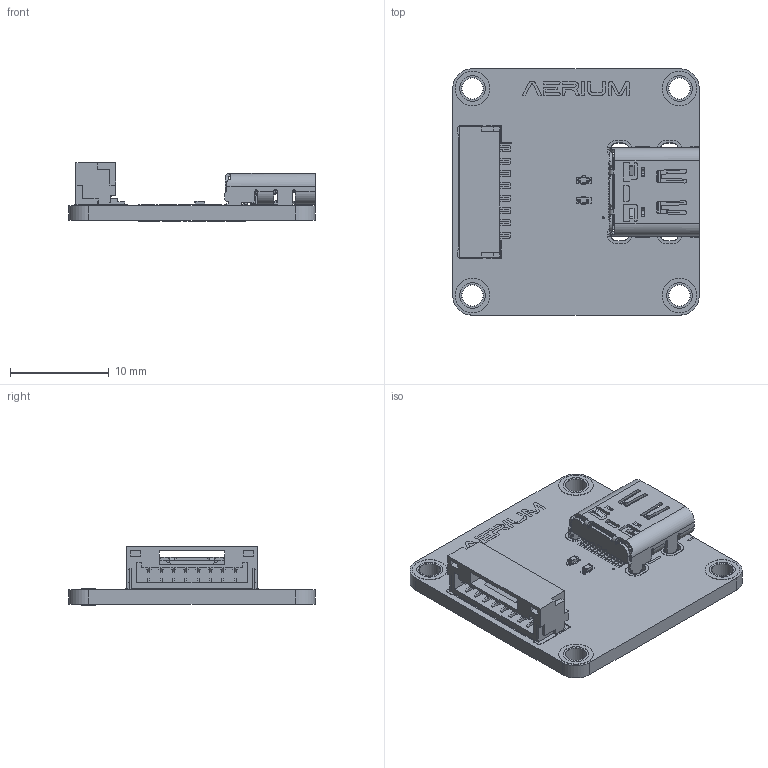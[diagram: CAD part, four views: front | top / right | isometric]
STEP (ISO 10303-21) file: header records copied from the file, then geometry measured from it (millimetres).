
FILE_DESCRIPTION(/* description */ ('KiCad electronic assembly'),/* implementation_level */ '2;1');
FILE_NAME(/* name */ 'USB3_C.step',/* time_stamp */ '2026-09-20T15:17:58+03:00',/* author */ (''),/* organization */ (''),/* preprocessor_version */ 'ST-DEVELOPER v20.1',/* originating_system */ 'Autodesk Translation Framework v15.8.0.0',/* authorisation */ '');
FILE_SCHEMA (('AUTOMOTIVE_DESIGN { 1 0 10303 214 3 1 1 }'));
Products named in the file (8): 2026-09-20-12-17-06-282; 2026-09-20-12-17-06-283; 2026-09-20-12-17-06-285; 2026-09-20-12-17-06-286; 2026-09-20-12-17-06-287; 2026-09-20-12-17-06-288; 2026-09-20-12-17-06-289; 2026-09-20-12-17-06-284
Assembly tree (8 placements, depth 2):
  2026-09-20-12-17-06-282
    2026-09-20-12-17-06-283
    2026-09-20-12-17-06-284  x2
    2026-09-20-12-17-06-285
    2026-09-20-12-17-06-286
    2026-09-20-12-17-06-287
    2026-09-20-12-17-06-288
    2026-09-20-12-17-06-289
Bounding box: 25 x 25 x 5.92 mm (x, y, z)
Volume: 1180.4 mm3; surface area: 2781.8 mm2
Topology: 75 solids, 100 shells, 1950 faces, 5444 edges, 3670 vertices
Faces by surface type: plane 1398, cylinder 432, bspline 60, cone 26, torus 26, sphere 8
Full cylindrical faces by diameter (mm): 0.25 x4, 0.52 x1, 0.6 x1, 0.99 x1, 2.15 x20, 2.2 x8, 2.6 x8, 3.5 x8
Entity records: 64366 total; most frequent: CARTESIAN_POINT 13687, ORIENTED_EDGE 10250, DIRECTION 10092, EDGE_CURVE 5358, LINE 4240, VECTOR 4240, VERTEX_POINT 3626, AXIS2_PLACEMENT_3D 2926
